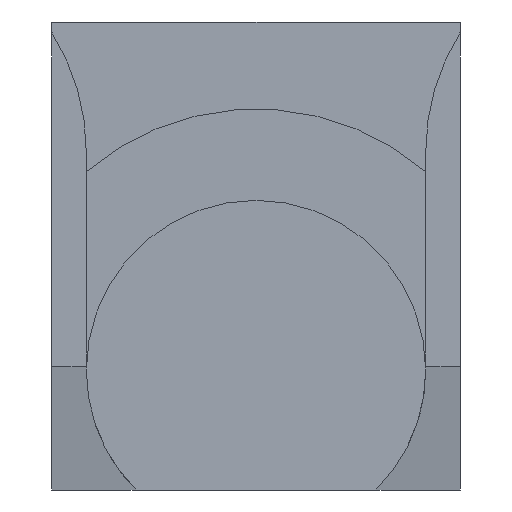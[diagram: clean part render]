
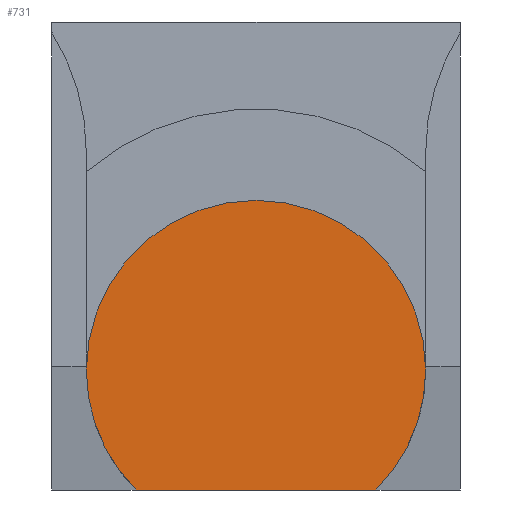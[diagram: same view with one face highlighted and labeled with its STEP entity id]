
A CAD part, left-side view. The second image highlights one B-rep face of the part: STEP entity #731.
In plain terms, the highlighted planar face has unit normal (-1, 0, 0).
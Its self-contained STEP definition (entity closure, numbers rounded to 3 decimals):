
#1 = DIRECTION ( 'NONE',  ( -1., 0., 0. ) ) ;
#3 = ORIENTED_EDGE ( 'NONE', *, *, #340, .T. ) ;
#102 = CARTESIAN_POINT ( 'NONE',  ( -80.49, 0.01, 0.01 ) ) ;
#131 = ORIENTED_EDGE ( 'NONE', *, *, #218, .T. ) ;
#184 = ORIENTED_EDGE ( 'NONE', *, *, #458, .T. ) ;
#186 = CARTESIAN_POINT ( 'NONE',  ( -80.49, 0.01, -3.89 ) ) ;
#218 = EDGE_CURVE ( 'NONE', #468, #1056, #953, .T. ) ;
#223 = CIRCLE ( 'NONE', #1011, 3.9 ) ;
#230 = CARTESIAN_POINT ( 'NONE',  ( -80.49, -2.748, -2.748 ) ) ;
#233 = DIRECTION ( 'NONE',  ( 0., 0., 1. ) ) ;
#252 = CIRCLE ( 'NONE', #943, 3.9 ) ;
#291 = AXIS2_PLACEMENT_3D ( 'NONE', #102, #1, #781 ) ;
#340 = EDGE_CURVE ( 'NONE', #1056, #792, #223, .T. ) ;
#399 = VECTOR ( 'NONE', #807, 1000. ) ;
#458 = EDGE_CURVE ( 'NONE', #1029, #468, #594, .T. ) ;
#468 = VERTEX_POINT ( 'NONE', #716 ) ;
#490 = CARTESIAN_POINT ( 'NONE',  ( -80.49, 0.01, 0.01 ) ) ;
#564 = DIRECTION ( 'NONE',  ( 0., 0., 1. ) ) ;
#571 = CARTESIAN_POINT ( 'NONE',  ( -80.49, 0.01, 0.01 ) ) ;
#594 = LINE ( 'NONE', #230, #399 ) ;
#625 = CARTESIAN_POINT ( 'NONE',  ( -80.49, 0.01, 3.91 ) ) ;
#716 = CARTESIAN_POINT ( 'NONE',  ( -80.49, -2.748, 2.768 ) ) ;
#719 = DIRECTION ( 'NONE',  ( -1., 0., 0. ) ) ;
#726 = CARTESIAN_POINT ( 'NONE',  ( -80.49, -2.748, -2.748 ) ) ;
#731 = ADVANCED_FACE ( 'NONE', ( #1099 ), #1153, .T. ) ;
#776 = AXIS2_PLACEMENT_3D ( 'NONE', #571, #1252, #564 ) ;
#781 = DIRECTION ( 'NONE',  ( 0., 0., 1. ) ) ;
#792 = VERTEX_POINT ( 'NONE', #186 ) ;
#807 = DIRECTION ( 'NONE',  ( 0., 0., 1. ) ) ;
#943 = AXIS2_PLACEMENT_3D ( 'NONE', #1106, #719, #233 ) ;
#953 = CIRCLE ( 'NONE', #291, 3.9 ) ;
#1011 = AXIS2_PLACEMENT_3D ( 'NONE', #490, #1085, #1088 ) ;
#1023 = EDGE_CURVE ( 'NONE', #792, #1029, #252, .T. ) ;
#1029 = VERTEX_POINT ( 'NONE', #726 ) ;
#1056 = VERTEX_POINT ( 'NONE', #625 ) ;
#1085 = DIRECTION ( 'NONE',  ( -1., 0., 0. ) ) ;
#1088 = DIRECTION ( 'NONE',  ( 0., 0., 1. ) ) ;
#1099 = FACE_OUTER_BOUND ( 'NONE', #1195, .T. ) ;
#1106 = CARTESIAN_POINT ( 'NONE',  ( -80.49, 0.01, 0.01 ) ) ;
#1141 = ORIENTED_EDGE ( 'NONE', *, *, #1023, .T. ) ;
#1153 = PLANE ( 'NONE',  #776 ) ;
#1195 = EDGE_LOOP ( 'NONE', ( #131, #3, #1141, #184 ) ) ;
#1252 = DIRECTION ( 'NONE',  ( -1., 0., 0. ) ) ;
